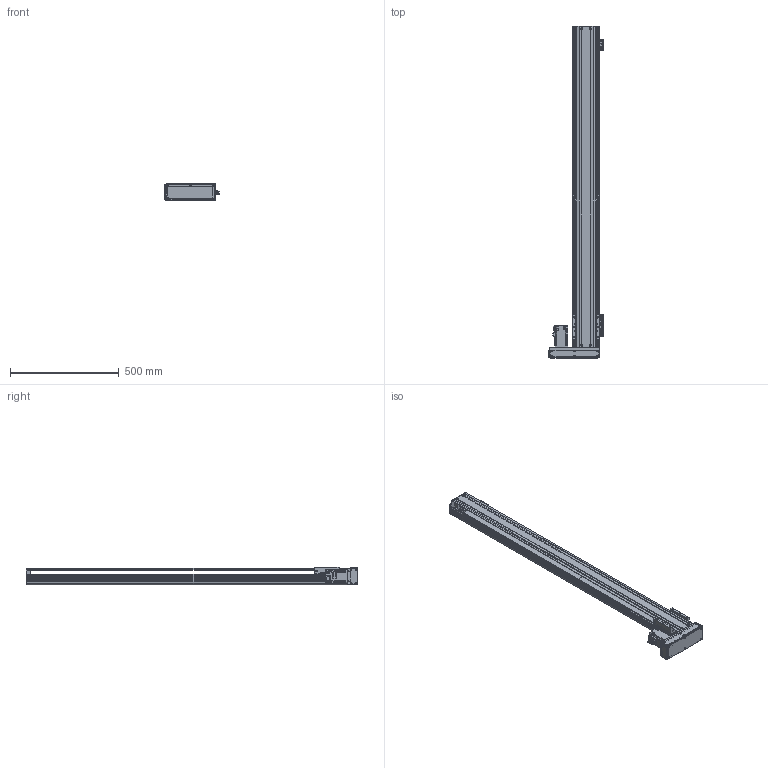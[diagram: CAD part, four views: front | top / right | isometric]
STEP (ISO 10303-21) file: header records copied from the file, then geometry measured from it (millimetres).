
FILE_DESCRIPTION(/* description */ ('MANUFACTURE'),/* implementation_level */ '2;1');
FILE_NAME(/* name */ '\\192.168.0.160\disk1\HAN SHIN Master\B-설계부문\C-표준\B-2024년\BC02-표준도면\+로봇 개선표준도면\홈페이지 표준 도면\홈페이지 최종 작업 폴더\3D\HR\HR120\HR120병렬\좌병렬\HR120-L40-N-1300-R10.stp',/* time_stamp */ '2025-01-20T18:04:33+09:00',/* author */ ('user'),/* organization */ (''),/* preprocessor_version */ 'ST-DEVELOPER v18.1',/* originating_system */ 'Autodesk Inventor 2022',/* authorisation */ 'LIP');
FILE_SCHEMA (('CONFIG_CONTROL_DESIGN'));
Products named in the file (19): HG120-L40-N-0500-R10; HR120 S BASE; HR(HG) 120,130 FRONT BLOCK; HR(HG) 120,130 FRONT BLOCK_1; HR120 FRONT COVER; HG5UPCOV003; HR120 SENSOR DOG; HG120 TABLE-N; HR120 STOPPER; HR120 LR MOTOR PLATE (400W)-사출; MOTOR PLATE - 200W; hg-kr43_; 화살표; HR120 LR BELT COVER; HR160 ACRYL COVER - 1; HR160 ACRYL COVER - 1_1; HR160 ACRYL COVER - 1_2; SENSOR BRK(EE-SX674A); EE_SX674A
Assembly tree (24 placements, depth 2):
  HG120-L40-N-0500-R10
    HR120 S BASE
    HR(HG) 120,130 FRONT BLOCK
    HR(HG) 120,130 FRONT BLOCK_1
    HR120 FRONT COVER
    SENSOR BRK(EE-SX674A)  x3
    HG5UPCOV003
    HR120 SENSOR DOG
    HG120 TABLE-N
    EE_SX674A  x3
    HR120 STOPPER
    HR120 LR MOTOR PLATE (400W)-사출
    MOTOR PLATE - 200W
    hg-kr43_
    화살표  x2
    HR120 LR BELT COVER
    HR160 ACRYL COVER - 1
    HR160 ACRYL COVER - 1_1
    HR160 ACRYL COVER - 1_2  x2
Bounding box: 250 x 1523 x 80 mm (x, y, z)
Volume: 3968740.5 mm3; surface area: 1607281.5 mm2
Topology: 24 solids, 24 shells, 3075 faces, 8786 edges, 5805 vertices
Faces by surface type: plane 2205, cylinder 728, cone 142
Full cylindrical faces by diameter (mm): 2.459 x50, 3 x4, 3.242 x48, 3.4 x20, 3.5 x6, 4.134 x42, 4.5 x56, 4.917 x6, 5 x26, 5.5 x31, 5.8 x4, 5.9 x8, 6 x4, 6.6 x2, 7 x4, 7.5 x16, 8 x4, 9 x6, 9.5 x19, 14 x1, 17 x1, 20 x1, 22 x1, 24 x1, 28 x1, 32 x2, 33.7 x1, 50 x2
Entity records: 97537 total; most frequent: CARTESIAN_POINT 19486, ORIENTED_EDGE 16324, DIRECTION 15153, EDGE_CURVE 8162, LINE 6517, VECTOR 6517, VERTEX_POINT 5457, AXIS2_PLACEMENT_3D 4318
